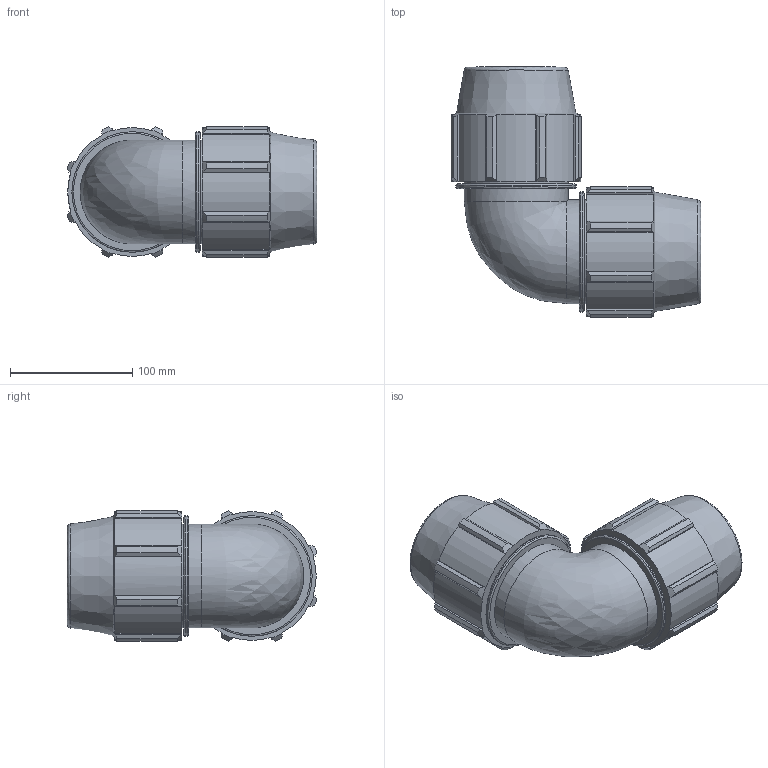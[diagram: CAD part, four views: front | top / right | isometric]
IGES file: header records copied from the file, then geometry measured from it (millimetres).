
Global section: file name: 0705M0020.ipt; native system: Autodesk Inventor 2019; preprocessor: unknown; author: KIM; date: 20210826.124613; units: inch
Bounding box: 204.05 x 204.05 x 106.35 mm (x, y, z)
Volume: 1275056.2 mm3; surface area: 164686.7 mm2
Topology: 1 solids, 1 shells, 148 faces, 422 edges, 284 vertices
Faces by surface type: plane 76, cylinder 38, cone 20, revolution 13, bspline 1
Full cylindrical faces by diameter (mm): 84.772 x4, 98.336 x2
